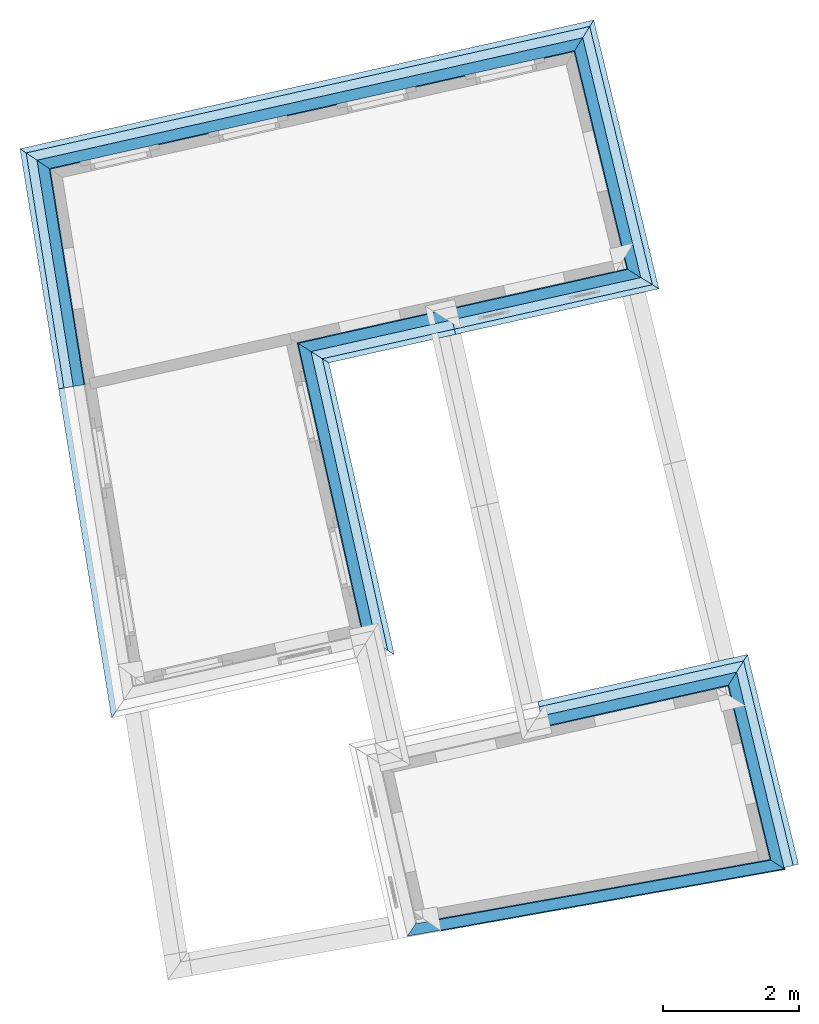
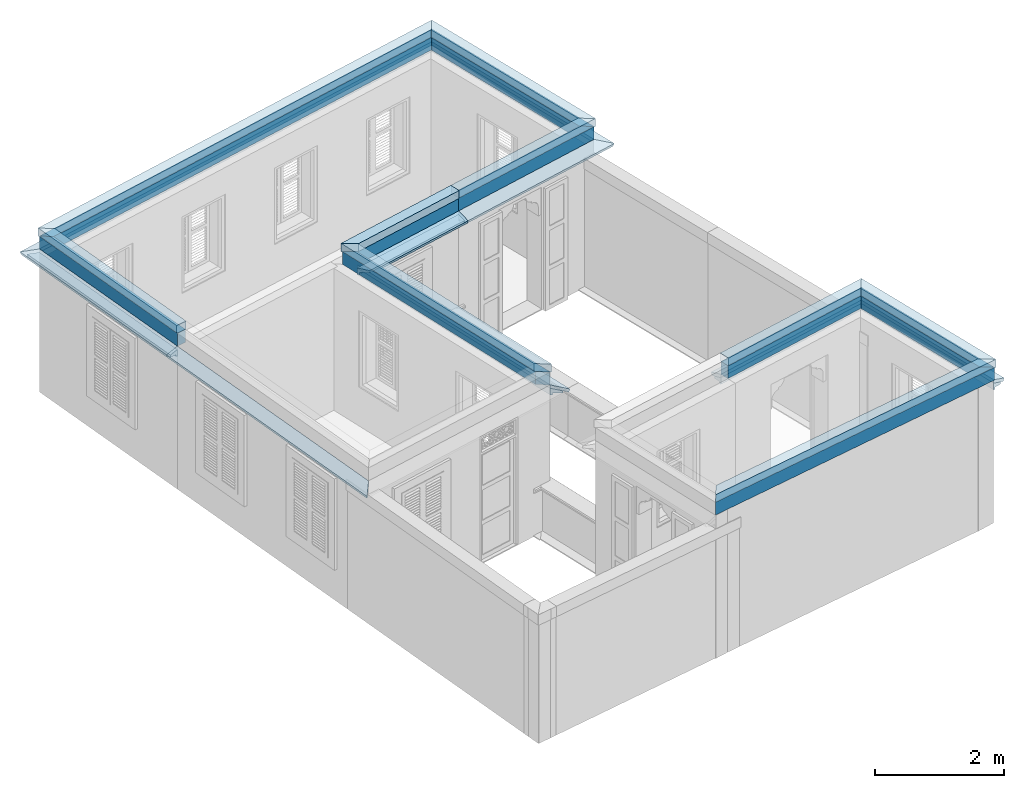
# One storey, part 14 of 15: 35 roofs.
"""IFC4 building model written with IfcOpenShell, lengths in metres."""

from ifc_helpers import new_model, si_unit, frame, origin_with_axes, place, context, subcontext, project, spatial, polyline, outline, extrude, clip, halfspace, material_profile, profile_set, profile_usage, type_object, element, save


model = new_model("IFC4")

# Units and contexts
model_context = context("Model", 3, world=origin_with_axes())
body_context = subcontext(model_context, "Body", "Model", "MODEL_VIEW")
ifc_project = project(units=[si_unit("PLANEANGLEUNIT", "RADIAN"), si_unit("MASSUNIT", "GRAM", prefix="KILO"), si_unit("FORCEUNIT", "NEWTON", prefix="KILO"), si_unit("LENGTHUNIT", "METRE"), si_unit("AREAUNIT", "SQUARE_METRE"), si_unit("VOLUMEUNIT", "CUBIC_METRE")], contexts=[model_context, model_context])

# Site, building, storey
site_placement = place(None, origin_with_axes())
site = spatial("IfcSite", under=ifc_project, at=site_placement, Name="Site plot-10", CompositionType="ELEMENT")
building_placement = place(None, origin_with_axes())
building = spatial("IfcBuilding", under=site, at=building_placement, Name="Building plot-10", CompositionType="ELEMENT")
storey_placement = place(None, frame((0.0, 0.0, 2.7), z_axis=(0.0, 0.0, 1.0), x_axis=(1.0, 0.0, 0.0)))
storey = spatial("IfcBuildingStorey", under=building, at=storey_placement, Name="plot-10 1", CompositionType="ELEMENT", Elevation=2.7)

# Roofs
ifc_material_profile_1 = material_profile(None, outline(polyline([(0.25, 0.0), (0.25, 0.245), (0.09, 0.245), (0.09, 0.0), (0.25, 0.0)])))
ifc_profile_set_1 = profile_set([ifc_material_profile_1])
ifc_profile_usage_1 = profile_usage(ifc_profile_set_1)
roof_type_1 = type_object("IfcRoofType", Name="roofline_0", PredefinedType="FREEFORM", material=ifc_profile_set_1)
roof_1_placement = place(storey_placement, frame((-13.5916048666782, 9.73821192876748, 2.7), z_axis=(-0.984393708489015, -0.175980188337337, 0.0), x_axis=(0.175980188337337, -0.984393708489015, 0.0)))
element("IfcRoof", 1, at=roof_1_placement, inside=storey, type_object=roof_type_1, material=ifc_profile_usage_1, Name="roofline_0", context=body_context, shape_type="Clipping", body=[
    clip(clip(extrude(outline(polyline([(0.25, 0.0), (0.25, 0.245), (0.09, 0.245), (0.09, 0.0), (0.25, 0.0)])), origin_with_axes(), (0.0, 0.0, 1.0), 7.13844115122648), halfspace(frame((0.0, 0.0, 6.13844115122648), z_axis=(0.691448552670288, 0.0, -0.722425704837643), x_axis=(0.0, 1.0, 0.0)), True)), halfspace(frame((0.0, 0.0, 1.0), z_axis=(-0.72834546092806, 0.0, -0.685210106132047), x_axis=(0.0, 1.0, 0.0)), False)),
])
ifc_profile_usage_2 = profile_usage(ifc_profile_set_1)
roof_2_placement = place(storey_placement, frame((-15.3941116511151, 12.9358055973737, 2.7), z_axis=(0.235675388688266, -0.971831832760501, 0.0), x_axis=(0.971831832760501, 0.235675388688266, 0.0)))
element("IfcRoof", 2, at=roof_2_placement, inside=storey, type_object=roof_type_1, material=ifc_profile_usage_2, Name="roofline_0", context=body_context, shape_type="Clipping", body=[
    clip(clip(extrude(outline(polyline([(0.25, 0.0), (0.25, 0.245), (0.09, 0.245), (0.09, 0.0), (0.25, 0.0)])), origin_with_axes(), (0.0, 0.0, 1.0), 4.47135558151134), halfspace(frame((0.0, 0.0, 3.47135558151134), z_axis=(0.728345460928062, 0.0, -0.685210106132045), x_axis=(0.0, 1.0, 0.0)), True)), halfspace(frame((0.0, 0.0, 1.0), z_axis=(-0.700999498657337, 0.0, -0.713161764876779), x_axis=(0.0, 1.0, 0.0)), False)),
])
ifc_profile_usage_3 = profile_usage(ifc_profile_set_1)
roof_3_placement = place(storey_placement, frame((-18.7751545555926, 11.152496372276, 2.7), z_axis=(0.97574155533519, 0.218925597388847, 0.0), x_axis=(-0.218925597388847, 0.97574155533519, 0.0)))
element("IfcRoof", 3, at=roof_3_placement, inside=storey, type_object=roof_type_1, material=ifc_profile_usage_3, Name="roofline_0", context=body_context, shape_type="Clipping", body=[
    clip(clip(extrude(outline(polyline([(0.25, 0.0), (0.25, 0.245), (0.09, 0.245), (0.09, 0.0), (0.25, 0.0)])), origin_with_axes(), (0.0, 0.0, 1.0), 4.7066355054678), halfspace(frame((0.0, 0.0, 3.7066355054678), z_axis=(0.700999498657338, 0.0, -0.713161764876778), x_axis=(0.0, 1.0, 0.0)), True)), halfspace(frame((0.0, 0.0, 1.0), z_axis=(3.82856869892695e-16, 0.0, -1.0), x_axis=(0.0, 1.0, 0.0)), False)),
])
ifc_material_profile_2 = material_profile(None, outline(polyline([(0.265, 0.245), (0.265, 0.395), (0.075, 0.395), (0.075, 0.245), (0.265, 0.245)])))
ifc_profile_set_2 = profile_set([ifc_material_profile_2])
ifc_profile_usage_4 = profile_usage(ifc_profile_set_2)
roof_type_2 = type_object("IfcRoofType", Name="roofline_1", PredefinedType="FREEFORM", material=ifc_profile_set_2)
roof_4_placement = place(storey_placement, frame((-13.5916048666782, 9.73821192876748, 2.7), z_axis=(-0.984393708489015, -0.175980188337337, 0.0), x_axis=(0.175980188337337, -0.984393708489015, 0.0)))
element("IfcRoof", 4, at=roof_4_placement, inside=storey, type_object=roof_type_2, material=ifc_profile_usage_4, Name="roofline_1", context=body_context, shape_type="Clipping", body=[
    clip(clip(extrude(outline(polyline([(0.265, 0.245), (0.265, 0.395), (0.075, 0.395), (0.075, 0.245), (0.265, 0.245)])), origin_with_axes(), (0.0, 0.0, 1.0), 7.13844115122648), halfspace(frame((0.0, 0.0, 6.13844115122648), z_axis=(0.691448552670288, 0.0, -0.722425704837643), x_axis=(0.0, 1.0, 0.0)), True)), halfspace(frame((0.0, 0.0, 1.0), z_axis=(-0.72834546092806, 0.0, -0.685210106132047), x_axis=(0.0, 1.0, 0.0)), False)),
])
ifc_profile_usage_5 = profile_usage(ifc_profile_set_2)
roof_5_placement = place(storey_placement, frame((-15.3941116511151, 12.9358055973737, 2.7), z_axis=(0.235675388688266, -0.971831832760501, 0.0), x_axis=(0.971831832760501, 0.235675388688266, 0.0)))
element("IfcRoof", 5, at=roof_5_placement, inside=storey, type_object=roof_type_2, material=ifc_profile_usage_5, Name="roofline_1", context=body_context, shape_type="Clipping", body=[
    clip(clip(extrude(outline(polyline([(0.265, 0.245), (0.265, 0.395), (0.075, 0.395), (0.075, 0.245), (0.265, 0.245)])), origin_with_axes(), (0.0, 0.0, 1.0), 4.47135558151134), halfspace(frame((0.0, 0.0, 3.47135558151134), z_axis=(0.728345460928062, 0.0, -0.685210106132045), x_axis=(0.0, 1.0, 0.0)), True)), halfspace(frame((0.0, 0.0, 1.0), z_axis=(-0.700999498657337, 0.0, -0.713161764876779), x_axis=(0.0, 1.0, 0.0)), False)),
])
ifc_profile_usage_6 = profile_usage(ifc_profile_set_2)
roof_6_placement = place(storey_placement, frame((-18.7751545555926, 11.152496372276, 2.7), z_axis=(0.97574155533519, 0.218925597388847, 0.0), x_axis=(-0.218925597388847, 0.97574155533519, 0.0)))
element("IfcRoof", 6, at=roof_6_placement, inside=storey, type_object=roof_type_2, material=ifc_profile_usage_6, Name="roofline_1", context=body_context, shape_type="Clipping", body=[
    clip(clip(extrude(outline(polyline([(0.265, 0.245), (0.265, 0.395), (0.075, 0.395), (0.075, 0.245), (0.265, 0.245)])), origin_with_axes(), (0.0, 0.0, 1.0), 4.7066355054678), halfspace(frame((0.0, 0.0, 3.7066355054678), z_axis=(0.700999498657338, 0.0, -0.713161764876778), x_axis=(0.0, 1.0, 0.0)), True)), halfspace(frame((0.0, 0.0, 1.0), z_axis=(3.82856869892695e-16, 0.0, -1.0), x_axis=(0.0, 1.0, 0.0)), False)),
])
ifc_material_profile_3 = material_profile(None, outline(polyline([(0.25, 0.0), (0.25, 0.245), (0.09, 0.245), (0.09, 0.0), (0.25, 0.0)])))
ifc_profile_set_3 = profile_set([ifc_material_profile_3])
ifc_profile_usage_7 = profile_usage(ifc_profile_set_3)
roof_type_3 = type_object("IfcRoofType", Name="roofline_0", PredefinedType="FREEFORM", material=ifc_profile_set_3)
roof_7_placement = place(storey_placement, frame((-21.7648473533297, 18.1539547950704, 2.7), z_axis=(0.218925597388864, -0.975741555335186, 0.0), x_axis=(0.975741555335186, 0.218925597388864, 0.0)))
element("IfcRoof", 7, at=roof_7_placement, inside=storey, type_object=roof_type_3, material=ifc_profile_usage_7, Name="roofline_0", context=body_context, shape_type="Clipping", body=[
    clip(clip(extrude(outline(polyline([(0.25, 0.0), (0.25, 0.245), (0.09, 0.245), (0.09, 0.0), (0.25, 0.0)])), origin_with_axes(), (0.0, 0.0, 1.0), 6.40809049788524), halfspace(frame((0.0, 0.0, 5.40809049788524), z_axis=(0.707106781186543, 0.0, -0.707106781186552), x_axis=(0.0, 1.0, 0.0)), True)), halfspace(frame((0.0, 0.0, 1.0), z_axis=(0.707106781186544, 0.0, -0.707106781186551), x_axis=(0.0, 1.0, 0.0)), False)),
])
ifc_profile_usage_8 = profile_usage(ifc_profile_set_3)
roof_8_placement = place(storey_placement, frame((-18.2436522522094, 17.9191382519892, 2.7), z_axis=(-0.975741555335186, -0.218925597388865, 0.0), x_axis=(0.218925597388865, -0.975741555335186, 0.0)))
element("IfcRoof", 8, at=roof_8_placement, inside=storey, type_object=roof_type_3, material=ifc_profile_usage_8, Name="roofline_0", context=body_context, shape_type="Clipping", body=[
    clip(clip(extrude(outline(polyline([(0.25, 0.0), (0.25, 0.245), (0.09, 0.245), (0.09, 0.0), (0.25, 0.0)])), origin_with_axes(), (0.0, 0.0, 1.0), 4.38436903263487), halfspace(frame((0.0, 0.0, 3.38436903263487), z_axis=(-0.70710678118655, 0.0, -0.707106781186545), x_axis=(0.0, 1.0, 0.0)), True)), halfspace(frame((0.0, 0.0, 1.0), z_axis=(1.27103528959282e-15, 0.0, -1.0), x_axis=(0.0, 1.0, 0.0)), False)),
])
ifc_profile_usage_9 = profile_usage(ifc_profile_set_3)
roof_9_placement = place(storey_placement, frame((-15.7115430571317, 18.4872636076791, 2.7), z_axis=(-0.975741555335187, -0.218925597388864, 0.0), x_axis=(0.218925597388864, -0.975741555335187, 0.0)))
element("IfcRoof", 9, at=roof_9_placement, inside=storey, type_object=roof_type_3, material=ifc_profile_usage_9, Name="roofline_0", context=body_context, shape_type="Clipping", body=[
    clip(clip(extrude(outline(polyline([(0.25, 0.0), (0.25, 0.245), (0.09, 0.245), (0.09, 0.0), (0.25, 0.0)])), origin_with_axes(), (0.0, 0.0, 1.0), 4.59506134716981), halfspace(frame((0.0, 0.0, 3.59506134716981), z_axis=(-2.83276944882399e-16, 0.0, -1.0), x_axis=(0.0, 1.0, 0.0)), True)), halfspace(frame((0.0, 0.0, 1.0), z_axis=(-0.713161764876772, 0.0, -0.700999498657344), x_axis=(0.0, 1.0, 0.0)), False)),
])
ifc_profile_usage_10 = profile_usage(ifc_profile_set_3)
roof_10_placement = place(storey_placement, frame((-17.6623946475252, 22.2893050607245, 2.7), z_axis=(0.235675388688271, -0.9718318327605, 0.0), x_axis=(0.9718318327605, 0.235675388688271, 0.0)))
element("IfcRoof", 10, at=roof_10_placement, inside=storey, type_object=roof_type_3, material=ifc_profile_usage_10, Name="roofline_0", context=body_context, shape_type="Clipping", body=[
    clip(clip(extrude(outline(polyline([(0.25, 0.0), (0.25, 0.245), (0.09, 0.245), (0.09, 0.0), (0.25, 0.0)])), origin_with_axes(), (0.0, 0.0, 1.0), 5.13751321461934), halfspace(frame((0.0, 0.0, 4.13751321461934), z_axis=(0.713161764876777, 0.0, -0.700999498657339), x_axis=(0.0, 1.0, 0.0)), True)), halfspace(frame((0.0, 0.0, 1.0), z_axis=(-0.700999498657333, 0.0, -0.713161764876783), x_axis=(0.0, 1.0, 0.0)), False)),
])
ifc_profile_usage_11 = profile_usage(ifc_profile_set_3)
roof_11_placement = place(storey_placement, frame((-25.9790367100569, 19.3986032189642, 2.7), z_axis=(0.975741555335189, 0.218925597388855, 0.0), x_axis=(-0.218925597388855, 0.975741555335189, 0.0)))
element("IfcRoof", 11, at=roof_11_placement, inside=storey, type_object=roof_type_3, material=ifc_profile_usage_11, Name="roofline_0", context=body_context, shape_type="Clipping", body=[
    clip(clip(extrude(outline(polyline([(0.25, 0.0), (0.25, 0.245), (0.09, 0.245), (0.09, 0.0), (0.25, 0.0)])), origin_with_axes(), (0.0, 0.0, 1.0), 9.7649412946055), halfspace(frame((0.0, 0.0, 8.7649412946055), z_axis=(0.700999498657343, 0.0, -0.713161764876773), x_axis=(0.0, 1.0, 0.0)), True)), halfspace(frame((0.0, 0.0, 1.0), z_axis=(-0.685143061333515, 0.0, -0.72840852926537), x_axis=(0.0, 1.0, 0.0)), False)),
])
ifc_profile_usage_12 = profile_usage(ifc_profile_set_3)
roof_12_placement = place(storey_placement, frame((-24.3452259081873, 15.527194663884, 2.7), z_axis=(-0.158841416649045, 0.987304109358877, 0.0), x_axis=(-0.987304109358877, -0.158841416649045, 0.0)))
element("IfcRoof", 12, at=roof_12_placement, inside=storey, type_object=roof_type_3, material=ifc_profile_usage_12, Name="roofline_0", context=body_context, shape_type="Clipping", body=[
    clip(clip(extrude(outline(polyline([(0.25, 0.0), (0.25, 0.245), (0.09, 0.245), (0.09, 0.0), (0.25, 0.0)])), origin_with_axes(), (0.0, 0.0, 1.0), 5.14293236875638), halfspace(frame((0.0, 0.0, 4.14293236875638), z_axis=(0.685143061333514, 0.0, -0.728408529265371), x_axis=(0.0, 1.0, 0.0)), True)), halfspace(frame((0.0, 0.0, 1.0), z_axis=(-1.39349996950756e-15, 0.0, -1.0), x_axis=(0.0, 1.0, 0.0)), False)),
])
ifc_material_profile_4 = material_profile(None, outline(polyline([(0.265, 0.245), (0.265, 0.395), (0.075, 0.395), (0.075, 0.245), (0.265, 0.245)])))
ifc_profile_set_4 = profile_set([ifc_material_profile_4])
ifc_profile_usage_13 = profile_usage(ifc_profile_set_4)
roof_type_4 = type_object("IfcRoofType", Name="roofline_1", PredefinedType="FREEFORM", material=ifc_profile_set_4)
roof_13_placement = place(storey_placement, frame((-21.7648473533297, 18.1539547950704, 2.7), z_axis=(0.218925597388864, -0.975741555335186, 0.0), x_axis=(0.975741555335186, 0.218925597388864, 0.0)))
element("IfcRoof", 13, at=roof_13_placement, inside=storey, type_object=roof_type_4, material=ifc_profile_usage_13, Name="roofline_1", context=body_context, shape_type="Clipping", body=[
    clip(clip(extrude(outline(polyline([(0.265, 0.245), (0.265, 0.395), (0.075, 0.395), (0.075, 0.245), (0.265, 0.245)])), origin_with_axes(), (0.0, 0.0, 1.0), 6.40809049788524), halfspace(frame((0.0, 0.0, 5.40809049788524), z_axis=(0.707106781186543, 0.0, -0.707106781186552), x_axis=(0.0, 1.0, 0.0)), True)), halfspace(frame((0.0, 0.0, 1.0), z_axis=(0.707106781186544, 0.0, -0.707106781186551), x_axis=(0.0, 1.0, 0.0)), False)),
])
ifc_profile_usage_14 = profile_usage(ifc_profile_set_4)
roof_14_placement = place(storey_placement, frame((-18.2436522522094, 17.9191382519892, 2.7), z_axis=(-0.975741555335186, -0.218925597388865, 0.0), x_axis=(0.218925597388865, -0.975741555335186, 0.0)))
element("IfcRoof", 14, at=roof_14_placement, inside=storey, type_object=roof_type_4, material=ifc_profile_usage_14, Name="roofline_1", context=body_context, shape_type="Clipping", body=[
    clip(clip(extrude(outline(polyline([(0.265, 0.245), (0.265, 0.395), (0.075, 0.395), (0.075, 0.245), (0.265, 0.245)])), origin_with_axes(), (0.0, 0.0, 1.0), 4.38436903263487), halfspace(frame((0.0, 0.0, 3.38436903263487), z_axis=(-0.70710678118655, 0.0, -0.707106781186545), x_axis=(0.0, 1.0, 0.0)), True)), halfspace(frame((0.0, 0.0, 1.0), z_axis=(1.27103528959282e-15, 0.0, -1.0), x_axis=(0.0, 1.0, 0.0)), False)),
])
ifc_profile_usage_15 = profile_usage(ifc_profile_set_4)
roof_15_placement = place(storey_placement, frame((-15.7115430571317, 18.4872636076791, 2.7), z_axis=(-0.975741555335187, -0.218925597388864, 0.0), x_axis=(0.218925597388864, -0.975741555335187, 0.0)))
element("IfcRoof", 15, at=roof_15_placement, inside=storey, type_object=roof_type_4, material=ifc_profile_usage_15, Name="roofline_1", context=body_context, shape_type="Clipping", body=[
    clip(clip(extrude(outline(polyline([(0.265, 0.245), (0.265, 0.395), (0.075, 0.395), (0.075, 0.245), (0.265, 0.245)])), origin_with_axes(), (0.0, 0.0, 1.0), 4.59506134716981), halfspace(frame((0.0, 0.0, 3.59506134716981), z_axis=(-2.83276944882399e-16, 0.0, -1.0), x_axis=(0.0, 1.0, 0.0)), True)), halfspace(frame((0.0, 0.0, 1.0), z_axis=(-0.713161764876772, 0.0, -0.700999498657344), x_axis=(0.0, 1.0, 0.0)), False)),
])
ifc_profile_usage_16 = profile_usage(ifc_profile_set_4)
roof_16_placement = place(storey_placement, frame((-17.6623946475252, 22.2893050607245, 2.7), z_axis=(0.235675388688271, -0.9718318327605, 0.0), x_axis=(0.9718318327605, 0.235675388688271, 0.0)))
element("IfcRoof", 16, at=roof_16_placement, inside=storey, type_object=roof_type_4, material=ifc_profile_usage_16, Name="roofline_1", context=body_context, shape_type="Clipping", body=[
    clip(clip(extrude(outline(polyline([(0.265, 0.245), (0.265, 0.395), (0.075, 0.395), (0.075, 0.245), (0.265, 0.245)])), origin_with_axes(), (0.0, 0.0, 1.0), 5.13751321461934), halfspace(frame((0.0, 0.0, 4.13751321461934), z_axis=(0.713161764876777, 0.0, -0.700999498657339), x_axis=(0.0, 1.0, 0.0)), True)), halfspace(frame((0.0, 0.0, 1.0), z_axis=(-0.700999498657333, 0.0, -0.713161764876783), x_axis=(0.0, 1.0, 0.0)), False)),
])
ifc_profile_usage_17 = profile_usage(ifc_profile_set_4)
roof_17_placement = place(storey_placement, frame((-25.9790367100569, 19.3986032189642, 2.7), z_axis=(0.975741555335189, 0.218925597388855, 0.0), x_axis=(-0.218925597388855, 0.975741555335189, 0.0)))
element("IfcRoof", 17, at=roof_17_placement, inside=storey, type_object=roof_type_4, material=ifc_profile_usage_17, Name="roofline_1", context=body_context, shape_type="Clipping", body=[
    clip(clip(extrude(outline(polyline([(0.265, 0.245), (0.265, 0.395), (0.075, 0.395), (0.075, 0.245), (0.265, 0.245)])), origin_with_axes(), (0.0, 0.0, 1.0), 9.7649412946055), halfspace(frame((0.0, 0.0, 8.7649412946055), z_axis=(0.700999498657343, 0.0, -0.713161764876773), x_axis=(0.0, 1.0, 0.0)), True)), halfspace(frame((0.0, 0.0, 1.0), z_axis=(-0.685143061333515, 0.0, -0.72840852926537), x_axis=(0.0, 1.0, 0.0)), False)),
])
ifc_profile_usage_18 = profile_usage(ifc_profile_set_4)
roof_18_placement = place(storey_placement, frame((-24.3452259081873, 15.527194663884, 2.7), z_axis=(-0.158841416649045, 0.987304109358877, 0.0), x_axis=(-0.987304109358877, -0.158841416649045, 0.0)))
element("IfcRoof", 18, at=roof_18_placement, inside=storey, type_object=roof_type_4, material=ifc_profile_usage_18, Name="roofline_1", context=body_context, shape_type="Clipping", body=[
    clip(clip(extrude(outline(polyline([(0.265, 0.245), (0.265, 0.395), (0.075, 0.395), (0.075, 0.245), (0.265, 0.245)])), origin_with_axes(), (0.0, 0.0, 1.0), 5.14293236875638), halfspace(frame((0.0, 0.0, 4.14293236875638), z_axis=(0.685143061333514, 0.0, -0.728408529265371), x_axis=(0.0, 1.0, 0.0)), True)), halfspace(frame((0.0, 0.0, 1.0), z_axis=(-1.39349996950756e-15, 0.0, -1.0), x_axis=(0.0, 1.0, 0.0)), False)),
])
ifc_material_profile_5 = material_profile(None, outline(polyline([(0.25, -0.19), (0.275, -0.19), (0.275, -0.15), (0.39, -0.15), (0.39, -0.107509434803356), (0.25, -0.0629639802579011), (0.25, -0.19)])))
ifc_profile_set_5 = profile_set([ifc_material_profile_5])
ifc_profile_usage_19 = profile_usage(ifc_profile_set_5)
roof_type_5 = type_object("IfcRoofType", Name="eaves_0", PredefinedType="FREEFORM", material=ifc_profile_set_5)
roof_19_placement = place(storey_placement, frame((-15.7115430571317, 18.4872636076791, 2.7), z_axis=(-0.975741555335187, -0.218925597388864, 0.0), x_axis=(0.218925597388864, -0.975741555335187, 0.0)))
element("IfcRoof", 19, at=roof_19_placement, inside=storey, type_object=roof_type_5, material=ifc_profile_usage_19, Name="eaves_0", context=body_context, shape_type="Clipping", body=[
    clip(clip(extrude(outline(polyline([(0.25, -0.19), (0.275, -0.19), (0.275, -0.15), (0.39, -0.15), (0.39, -0.107509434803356), (0.25, -0.0629639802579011), (0.25, -0.19)])), origin_with_axes(), (0.0, 0.0, 1.0), 4.59506134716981), halfspace(frame((0.0, 0.0, 3.59506134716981), z_axis=(-2.83276944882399e-16, 0.0, -1.0), x_axis=(0.0, 1.0, 0.0)), True)), halfspace(frame((0.0, 0.0, 1.0), z_axis=(-0.713161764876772, 0.0, -0.700999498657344), x_axis=(0.0, 1.0, 0.0)), False)),
])
ifc_profile_usage_20 = profile_usage(ifc_profile_set_5)
roof_20_placement = place(storey_placement, frame((-17.6623946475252, 22.2893050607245, 2.7), z_axis=(0.235675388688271, -0.9718318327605, 0.0), x_axis=(0.9718318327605, 0.235675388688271, 0.0)))
element("IfcRoof", 20, at=roof_20_placement, inside=storey, type_object=roof_type_5, material=ifc_profile_usage_20, Name="eaves_0", context=body_context, shape_type="Clipping", body=[
    clip(clip(extrude(outline(polyline([(0.25, -0.19), (0.275, -0.19), (0.275, -0.15), (0.39, -0.15), (0.39, -0.107509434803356), (0.25, -0.0629639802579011), (0.25, -0.19)])), origin_with_axes(), (0.0, 0.0, 1.0), 5.13751321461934), halfspace(frame((0.0, 0.0, 4.13751321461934), z_axis=(0.713161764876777, 0.0, -0.700999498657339), x_axis=(0.0, 1.0, 0.0)), True)), halfspace(frame((0.0, 0.0, 1.0), z_axis=(-0.700999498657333, 0.0, -0.713161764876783), x_axis=(0.0, 1.0, 0.0)), False)),
])
ifc_profile_usage_21 = profile_usage(ifc_profile_set_5)
roof_21_placement = place(storey_placement, frame((-25.9790367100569, 19.3986032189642, 2.7), z_axis=(0.975741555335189, 0.218925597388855, 0.0), x_axis=(-0.218925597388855, 0.975741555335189, 0.0)))
element("IfcRoof", 21, at=roof_21_placement, inside=storey, type_object=roof_type_5, material=ifc_profile_usage_21, Name="eaves_0", context=body_context, shape_type="Clipping", body=[
    clip(clip(extrude(outline(polyline([(0.25, -0.19), (0.275, -0.19), (0.275, -0.15), (0.39, -0.15), (0.39, -0.107509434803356), (0.25, -0.0629639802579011), (0.25, -0.19)])), origin_with_axes(), (0.0, 0.0, 1.0), 9.7649412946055), halfspace(frame((0.0, 0.0, 8.7649412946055), z_axis=(0.700999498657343, 0.0, -0.713161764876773), x_axis=(0.0, 1.0, 0.0)), True)), halfspace(frame((0.0, 0.0, 1.0), z_axis=(-0.685143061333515, 0.0, -0.72840852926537), x_axis=(0.0, 1.0, 0.0)), False)),
])
ifc_profile_usage_22 = profile_usage(ifc_profile_set_5)
roof_22_placement = place(storey_placement, frame((-24.3452259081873, 15.527194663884, 2.7), z_axis=(-0.158841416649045, 0.987304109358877, 0.0), x_axis=(-0.987304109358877, -0.158841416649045, 0.0)))
element("IfcRoof", 22, at=roof_22_placement, inside=storey, type_object=roof_type_5, material=ifc_profile_usage_22, Name="eaves_0", context=body_context, shape_type="Clipping", body=[
    clip(clip(extrude(outline(polyline([(0.25, -0.19), (0.275, -0.19), (0.275, -0.15), (0.39, -0.15), (0.39, -0.107509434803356), (0.25, -0.0629639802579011), (0.25, -0.19)])), origin_with_axes(), (0.0, 0.0, 1.0), 5.14293236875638), halfspace(frame((0.0, 0.0, 4.14293236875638), z_axis=(0.685143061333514, 0.0, -0.728408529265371), x_axis=(0.0, 1.0, 0.0)), True)), halfspace(frame((0.0, 0.0, 1.0), z_axis=(-1.39349996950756e-15, 0.0, -1.0), x_axis=(0.0, 1.0, 0.0)), False)),
])
ifc_profile_usage_23 = profile_usage(ifc_profile_set_5)
roof_23_placement = place(storey_placement, frame((-21.7648473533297, 18.1539547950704, 2.7), z_axis=(0.218925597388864, -0.975741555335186, 0.0), x_axis=(0.975741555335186, 0.218925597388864, 0.0)))
element("IfcRoof", 23, at=roof_23_placement, inside=storey, type_object=roof_type_5, material=ifc_profile_usage_23, Name="eaves_0", context=body_context, shape_type="Clipping", body=[
    clip(clip(extrude(outline(polyline([(0.25, -0.19), (0.275, -0.19), (0.275, -0.15), (0.39, -0.15), (0.39, -0.107509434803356), (0.25, -0.0629639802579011), (0.25, -0.19)])), origin_with_axes(), (0.0, 0.0, 1.0), 6.40809049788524), halfspace(frame((0.0, 0.0, 5.40809049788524), z_axis=(0.707106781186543, 0.0, -0.707106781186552), x_axis=(0.0, 1.0, 0.0)), True)), halfspace(frame((0.0, 0.0, 1.0), z_axis=(0.707106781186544, 0.0, -0.707106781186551), x_axis=(0.0, 1.0, 0.0)), False)),
])
ifc_profile_usage_24 = profile_usage(ifc_profile_set_5)
roof_24_placement = place(storey_placement, frame((-18.2436522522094, 17.9191382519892, 2.7), z_axis=(-0.975741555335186, -0.218925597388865, 0.0), x_axis=(0.218925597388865, -0.975741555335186, 0.0)))
element("IfcRoof", 24, at=roof_24_placement, inside=storey, type_object=roof_type_5, material=ifc_profile_usage_24, Name="eaves_0", context=body_context, shape_type="Clipping", body=[
    clip(clip(extrude(outline(polyline([(0.25, -0.19), (0.275, -0.19), (0.275, -0.15), (0.39, -0.15), (0.39, -0.107509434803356), (0.25, -0.0629639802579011), (0.25, -0.19)])), origin_with_axes(), (0.0, 0.0, 1.0), 4.38436903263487), halfspace(frame((0.0, 0.0, 3.38436903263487), z_axis=(-0.70710678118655, 0.0, -0.707106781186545), x_axis=(0.0, 1.0, 0.0)), True)), halfspace(frame((0.0, 0.0, 1.0), z_axis=(1.27103528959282e-15, 0.0, -1.0), x_axis=(0.0, 1.0, 0.0)), False)),
])
ifc_material_profile_6 = material_profile(None, outline(polyline([(0.25, -0.0629639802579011), (0.451807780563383, -0.127175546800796), (0.47, -0.07), (0.25, 0.0), (0.25, -0.0629639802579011)])))
ifc_profile_set_6 = profile_set([ifc_material_profile_6])
ifc_profile_usage_25 = profile_usage(ifc_profile_set_6)
roof_type_6 = type_object("IfcRoofType", Name="eaves_1", PredefinedType="FREEFORM", material=ifc_profile_set_6)
roof_25_placement = place(storey_placement, frame((-15.7115430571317, 18.4872636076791, 2.7), z_axis=(-0.975741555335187, -0.218925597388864, 0.0), x_axis=(0.218925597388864, -0.975741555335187, 0.0)))
element("IfcRoof", 25, at=roof_25_placement, inside=storey, type_object=roof_type_6, material=ifc_profile_usage_25, Name="eaves_1", context=body_context, shape_type="Clipping", body=[
    clip(clip(extrude(outline(polyline([(0.25, -0.0629639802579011), (0.451807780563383, -0.127175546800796), (0.47, -0.07), (0.25, 0.0), (0.25, -0.0629639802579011)])), origin_with_axes(), (0.0, 0.0, 1.0), 4.59506134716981), halfspace(frame((0.0, 0.0, 3.59506134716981), z_axis=(-2.83276944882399e-16, 0.0, -1.0), x_axis=(0.0, 1.0, 0.0)), True)), halfspace(frame((0.0, 0.0, 1.0), z_axis=(-0.713161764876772, 0.0, -0.700999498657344), x_axis=(0.0, 1.0, 0.0)), False)),
])
ifc_profile_usage_26 = profile_usage(ifc_profile_set_6)
roof_26_placement = place(storey_placement, frame((-17.6623946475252, 22.2893050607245, 2.7), z_axis=(0.235675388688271, -0.9718318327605, 0.0), x_axis=(0.9718318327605, 0.235675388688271, 0.0)))
element("IfcRoof", 26, at=roof_26_placement, inside=storey, type_object=roof_type_6, material=ifc_profile_usage_26, Name="eaves_1", context=body_context, shape_type="Clipping", body=[
    clip(clip(extrude(outline(polyline([(0.25, -0.0629639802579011), (0.451807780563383, -0.127175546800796), (0.47, -0.07), (0.25, 0.0), (0.25, -0.0629639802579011)])), origin_with_axes(), (0.0, 0.0, 1.0), 5.13751321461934), halfspace(frame((0.0, 0.0, 4.13751321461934), z_axis=(0.713161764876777, 0.0, -0.700999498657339), x_axis=(0.0, 1.0, 0.0)), True)), halfspace(frame((0.0, 0.0, 1.0), z_axis=(-0.700999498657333, 0.0, -0.713161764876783), x_axis=(0.0, 1.0, 0.0)), False)),
])
ifc_profile_usage_27 = profile_usage(ifc_profile_set_6)
roof_27_placement = place(storey_placement, frame((-25.9790367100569, 19.3986032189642, 2.7), z_axis=(0.975741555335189, 0.218925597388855, 0.0), x_axis=(-0.218925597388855, 0.975741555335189, 0.0)))
element("IfcRoof", 27, at=roof_27_placement, inside=storey, type_object=roof_type_6, material=ifc_profile_usage_27, Name="eaves_1", context=body_context, shape_type="Clipping", body=[
    clip(clip(extrude(outline(polyline([(0.25, -0.0629639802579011), (0.451807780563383, -0.127175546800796), (0.47, -0.07), (0.25, 0.0), (0.25, -0.0629639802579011)])), origin_with_axes(), (0.0, 0.0, 1.0), 9.7649412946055), halfspace(frame((0.0, 0.0, 8.7649412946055), z_axis=(0.700999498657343, 0.0, -0.713161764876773), x_axis=(0.0, 1.0, 0.0)), True)), halfspace(frame((0.0, 0.0, 1.0), z_axis=(-0.685143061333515, 0.0, -0.72840852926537), x_axis=(0.0, 1.0, 0.0)), False)),
])
ifc_profile_usage_28 = profile_usage(ifc_profile_set_6)
roof_28_placement = place(storey_placement, frame((-24.3452259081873, 15.527194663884, 2.7), z_axis=(-0.158841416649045, 0.987304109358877, 0.0), x_axis=(-0.987304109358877, -0.158841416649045, 0.0)))
element("IfcRoof", 28, at=roof_28_placement, inside=storey, type_object=roof_type_6, material=ifc_profile_usage_28, Name="eaves_1", context=body_context, shape_type="Clipping", body=[
    clip(clip(extrude(outline(polyline([(0.25, -0.0629639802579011), (0.451807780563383, -0.127175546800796), (0.47, -0.07), (0.25, 0.0), (0.25, -0.0629639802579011)])), origin_with_axes(), (0.0, 0.0, 1.0), 5.14293236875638), halfspace(frame((0.0, 0.0, 4.14293236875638), z_axis=(0.685143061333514, 0.0, -0.728408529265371), x_axis=(0.0, 1.0, 0.0)), True)), halfspace(frame((0.0, 0.0, 1.0), z_axis=(-1.39349996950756e-15, 0.0, -1.0), x_axis=(0.0, 1.0, 0.0)), False)),
])
ifc_profile_usage_29 = profile_usage(ifc_profile_set_6)
roof_29_placement = place(storey_placement, frame((-23.6437254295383, 11.1669067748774, 2.7), z_axis=(-0.158841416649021, 0.98730410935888, 0.0), x_axis=(-0.98730410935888, -0.158841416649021, 0.0)))
element("IfcRoof", 29, at=roof_29_placement, inside=storey, type_object=roof_type_6, material=ifc_profile_usage_29, Name="eaves_1", context=body_context, shape_type="Clipping", body=[
    clip(clip(extrude(outline(polyline([(0.25, -0.0629639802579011), (0.451807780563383, -0.127175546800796), (0.47, -0.07), (0.25, 0.0), (0.25, -0.0629639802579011)])), origin_with_axes(), (0.0, 0.0, 1.0), 6.41635748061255), halfspace(frame((0.0, 0.0, 5.41635748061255), z_axis=(-2.5596361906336e-14, 0.0, -1.0), x_axis=(0.0, 1.0, 0.0)), True)), halfspace(frame((0.0, 0.0, 1.0), z_axis=(-0.728408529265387, 0.0, -0.685143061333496), x_axis=(0.0, 1.0, 0.0)), False)),
])
ifc_profile_usage_30 = profile_usage(ifc_profile_set_6)
roof_30_placement = place(storey_placement, frame((-21.7648473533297, 18.1539547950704, 2.7), z_axis=(0.218925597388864, -0.975741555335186, 0.0), x_axis=(0.975741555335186, 0.218925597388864, 0.0)))
element("IfcRoof", 30, at=roof_30_placement, inside=storey, type_object=roof_type_6, material=ifc_profile_usage_30, Name="eaves_1", context=body_context, shape_type="Clipping", body=[
    clip(clip(extrude(outline(polyline([(0.25, -0.0629639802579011), (0.451807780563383, -0.127175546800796), (0.47, -0.07), (0.25, 0.0), (0.25, -0.0629639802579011)])), origin_with_axes(), (0.0, 0.0, 1.0), 6.40809049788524), halfspace(frame((0.0, 0.0, 5.40809049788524), z_axis=(0.707106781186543, 0.0, -0.707106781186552), x_axis=(0.0, 1.0, 0.0)), True)), halfspace(frame((0.0, 0.0, 1.0), z_axis=(0.707106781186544, 0.0, -0.707106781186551), x_axis=(0.0, 1.0, 0.0)), False)),
])
ifc_profile_usage_31 = profile_usage(ifc_profile_set_6)
roof_31_placement = place(storey_placement, frame((-18.2436522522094, 17.9191382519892, 2.7), z_axis=(-0.975741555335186, -0.218925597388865, 0.0), x_axis=(0.218925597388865, -0.975741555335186, 0.0)))
element("IfcRoof", 31, at=roof_31_placement, inside=storey, type_object=roof_type_6, material=ifc_profile_usage_31, Name="eaves_1", context=body_context, shape_type="Clipping", body=[
    clip(clip(extrude(outline(polyline([(0.25, -0.0629639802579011), (0.451807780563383, -0.127175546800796), (0.47, -0.07), (0.25, 0.0), (0.25, -0.0629639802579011)])), origin_with_axes(), (0.0, 0.0, 1.0), 4.38436903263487), halfspace(frame((0.0, 0.0, 3.38436903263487), z_axis=(-0.70710678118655, 0.0, -0.707106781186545), x_axis=(0.0, 1.0, 0.0)), True)), halfspace(frame((0.0, 0.0, 1.0), z_axis=(1.27103528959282e-15, 0.0, -1.0), x_axis=(0.0, 1.0, 0.0)), False)),
])
ifc_material_profile_7 = material_profile(None, outline(polyline([(0.25, -0.19), (0.275, -0.19), (0.275, -0.15), (0.39, -0.15), (0.39, -0.107509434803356), (0.25, -0.0629639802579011), (0.25, -0.19)])))
ifc_profile_set_7 = profile_set([ifc_material_profile_7])
ifc_profile_usage_32 = profile_usage(ifc_profile_set_7)
roof_type_7 = type_object("IfcRoofType", Name="eaves_0", PredefinedType="FREEFORM", material=ifc_profile_set_7)
roof_32_placement = place(storey_placement, frame((-15.3941116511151, 12.9358055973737, 2.7), z_axis=(0.235675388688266, -0.971831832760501, 0.0), x_axis=(0.971831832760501, 0.235675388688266, 0.0)))
element("IfcRoof", 32, at=roof_32_placement, inside=storey, type_object=roof_type_7, material=ifc_profile_usage_32, Name="eaves_0", context=body_context, shape_type="Clipping", body=[
    clip(clip(extrude(outline(polyline([(0.25, -0.19), (0.275, -0.19), (0.275, -0.15), (0.39, -0.15), (0.39, -0.107509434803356), (0.25, -0.0629639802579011), (0.25, -0.19)])), origin_with_axes(), (0.0, 0.0, 1.0), 4.72135558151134), halfspace(frame((0.0, 0.0, 3.72135558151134), z_axis=(-5.0532154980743e-16, 0.0, -1.0), x_axis=(0.0, 1.0, 0.0)), True)), halfspace(frame((0.0, 0.0, 1.0), z_axis=(-0.700999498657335, 0.0, -0.713161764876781), x_axis=(0.0, 1.0, 0.0)), False)),
])
ifc_profile_usage_33 = profile_usage(ifc_profile_set_7)
roof_33_placement = place(storey_placement, frame((-18.7751545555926, 11.152496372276, 2.7), z_axis=(0.97574155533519, 0.218925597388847, 0.0), x_axis=(-0.218925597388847, 0.97574155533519, 0.0)))
element("IfcRoof", 33, at=roof_33_placement, inside=storey, type_object=roof_type_7, material=ifc_profile_usage_33, Name="eaves_0", context=body_context, shape_type="Clipping", body=[
    clip(clip(extrude(outline(polyline([(0.25, -0.19), (0.275, -0.19), (0.275, -0.15), (0.39, -0.15), (0.39, -0.107509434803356), (0.25, -0.0629639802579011), (0.25, -0.19)])), origin_with_axes(), (0.0, 0.0, 1.0), 4.7066355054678), halfspace(frame((0.0, 0.0, 3.7066355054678), z_axis=(0.70099949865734, 0.0, -0.713161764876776), x_axis=(0.0, 1.0, 0.0)), True)), halfspace(frame((0.0, 0.0, 1.0), z_axis=(3.82856869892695e-16, 0.0, -1.0), x_axis=(0.0, 1.0, 0.0)), False)),
])
ifc_material_profile_8 = material_profile(None, outline(polyline([(0.25, -0.0629639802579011), (0.451807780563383, -0.127175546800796), (0.47, -0.07), (0.25, 0.0), (0.25, -0.0629639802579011)])))
ifc_profile_set_8 = profile_set([ifc_material_profile_8])
ifc_profile_usage_34 = profile_usage(ifc_profile_set_8)
roof_type_8 = type_object("IfcRoofType", Name="eaves_1", PredefinedType="FREEFORM", material=ifc_profile_set_8)
roof_34_placement = place(storey_placement, frame((-15.3941116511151, 12.9358055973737, 2.7), z_axis=(0.235675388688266, -0.971831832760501, 0.0), x_axis=(0.971831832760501, 0.235675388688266, 0.0)))
element("IfcRoof", 34, at=roof_34_placement, inside=storey, type_object=roof_type_8, material=ifc_profile_usage_34, Name="eaves_1", context=body_context, shape_type="Clipping", body=[
    clip(clip(extrude(outline(polyline([(0.25, -0.0629639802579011), (0.451807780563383, -0.127175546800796), (0.47, -0.07), (0.25, 0.0), (0.25, -0.0629639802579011)])), origin_with_axes(), (0.0, 0.0, 1.0), 4.72135558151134), halfspace(frame((0.0, 0.0, 3.72135558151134), z_axis=(-5.0532154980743e-16, 0.0, -1.0), x_axis=(0.0, 1.0, 0.0)), True)), halfspace(frame((0.0, 0.0, 1.0), z_axis=(-0.700999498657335, 0.0, -0.713161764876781), x_axis=(0.0, 1.0, 0.0)), False)),
])
ifc_profile_usage_35 = profile_usage(ifc_profile_set_8)
roof_35_placement = place(storey_placement, frame((-18.7751545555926, 11.152496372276, 2.7), z_axis=(0.97574155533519, 0.218925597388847, 0.0), x_axis=(-0.218925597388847, 0.97574155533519, 0.0)))
element("IfcRoof", 35, at=roof_35_placement, inside=storey, type_object=roof_type_8, material=ifc_profile_usage_35, Name="eaves_1", context=body_context, shape_type="Clipping", body=[
    clip(clip(extrude(outline(polyline([(0.25, -0.0629639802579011), (0.451807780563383, -0.127175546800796), (0.47, -0.07), (0.25, 0.0), (0.25, -0.0629639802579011)])), origin_with_axes(), (0.0, 0.0, 1.0), 4.7066355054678), halfspace(frame((0.0, 0.0, 3.7066355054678), z_axis=(0.70099949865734, 0.0, -0.713161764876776), x_axis=(0.0, 1.0, 0.0)), True)), halfspace(frame((0.0, 0.0, 1.0), z_axis=(3.82856869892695e-16, 0.0, -1.0), x_axis=(0.0, 1.0, 0.0)), False)),
])

save(model, "model.ifc")
